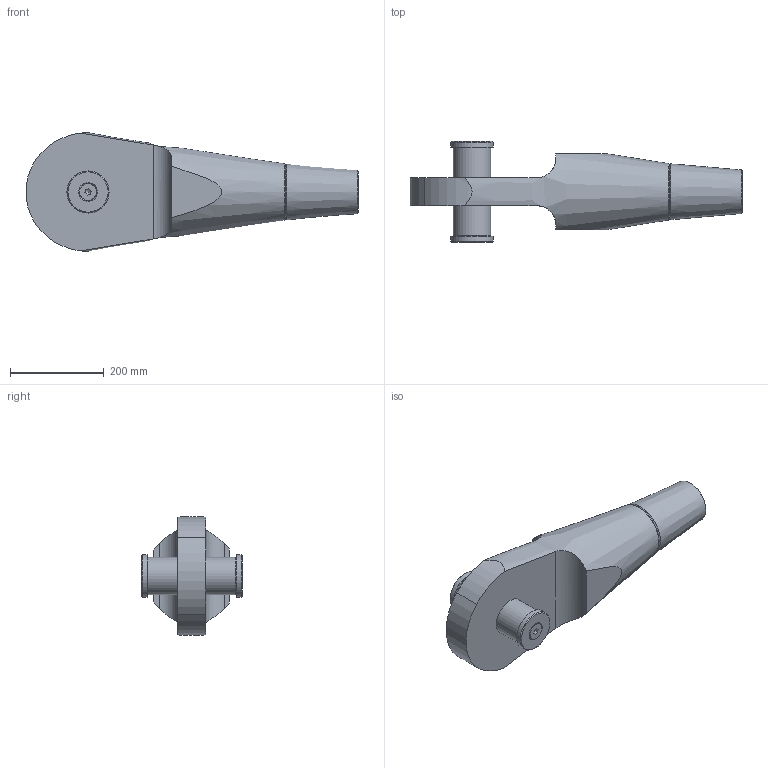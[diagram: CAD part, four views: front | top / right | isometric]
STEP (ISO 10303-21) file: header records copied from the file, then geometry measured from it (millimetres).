
FILE_DESCRIPTION(/* description */ (''),/* implementation_level */ '2;1');
FILE_NAME(/* name */ 'G:\Engineering\700 CAD\Internet-PX-1-step-igs-dxf\520-OES-Arbeitsdateien\520-080-OES.stp',/* time_stamp */ '2020-06-26T10:39:54+02:00',/* author */ ('schwarz'),/* organization */ (''),/* preprocessor_version */ 'ST-DEVELOPER v16.1',/* originating_system */ 'Autodesk Inventor 2016',/* authorisation */ '');
FILE_SCHEMA (('AUTOMOTIVE_DESIGN { 1 0 10303 214 3 1 1 }'));
Length unit declared in the file: centimetre
Products named in the file (1): 520-080-OES-KMU-Kunde
Bounding box: 709.59 x 216 x 253.68 mm (x, y, z)
Volume: 10429728.4 mm3; surface area: 477023.2 mm2
Topology: 2 solids, 4 shells, 49 faces, 109 edges, 71 vertices
Faces by surface type: plane 22, cylinder 14, cone 12, torus 1
Full cylindrical faces by diameter (mm): 17.294 x1, 20 x1, 22 x1, 36.05 x1, 80 x1, 83 x2, 90 x2
Entity records: 1384 total; most frequent: CARTESIAN_POINT 344, DIRECTION 198, ORIENTED_EDGE 158, AXIS2_PLACEMENT_3D 89, EDGE_CURVE 79, EDGE_LOOP 78, VERTEX_POINT 63, STYLED_ITEM 51
